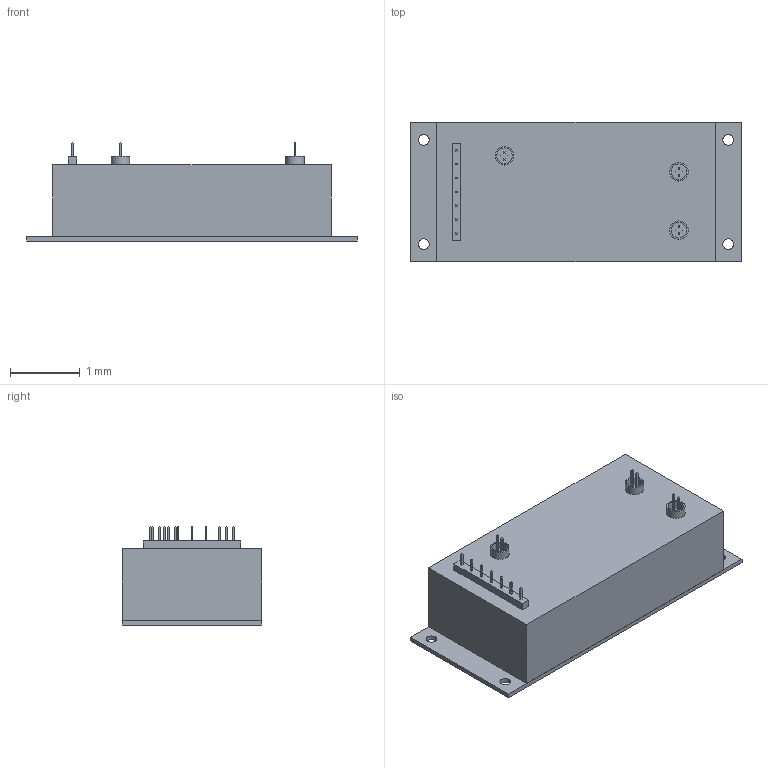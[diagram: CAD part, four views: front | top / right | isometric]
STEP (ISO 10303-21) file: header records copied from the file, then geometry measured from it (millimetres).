
FILE_DESCRIPTION((''),'2;1');
FILE_NAME('OL-013_revD_A-C_AUX_CAN.stp','2007-12-07T09:54:13',(''),(''),'Mechanical Desktop 2007','Mechanical Desktop 2007',', , ');
FILE_SCHEMA(('CONFIG_CONTROL_DESIGN'));
Length unit declared in the file: millimetre
Products named in the file (8): OL-013_REVD_A-C_AUX_CAN; HSG; BOT_COVER; 2PIN; 7PIN; PART1; PART2; dwgconnts
Assembly tree (9 placements, depth 2):
  OL-013_REVD_A-C_AUX_CAN
    HSG
    BOT_COVER
    2PIN  x3
    7PIN
    PART1
    PART2
    dwgconnts
Bounding box: 4.75 x 2 x 1.41 mm (x, y, z)
Volume: 8.9 mm3; surface area: 50.5 mm2
Topology: 6 solids, 12 shells, 254 faces, 542 edges, 366 vertices
Faces by surface type: plane 178, cylinder 76
Entity records: 5435 total; most frequent: CARTESIAN_POINT 1044, DIRECTION 913, ORIENTED_EDGE 792, EDGE_CURVE 396, AXIS2_PLACEMENT_3D 318, VECTOR 277, LINE 277, VERTEX_POINT 252
